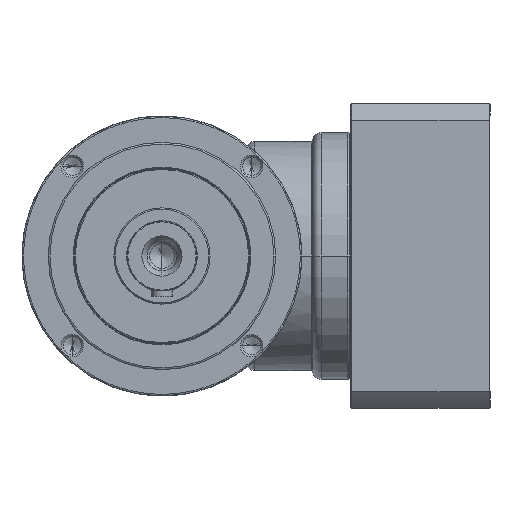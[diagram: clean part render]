
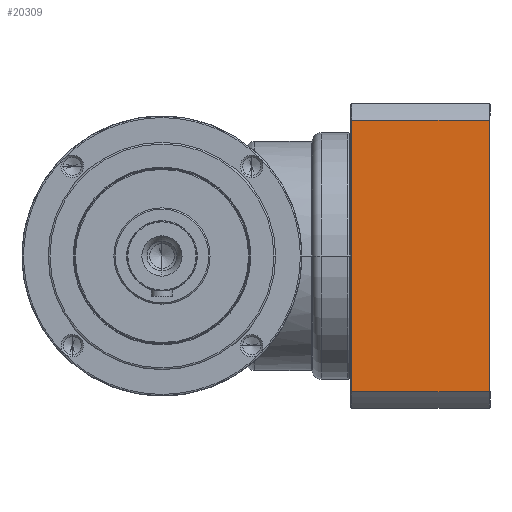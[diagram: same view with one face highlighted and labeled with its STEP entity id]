
A CAD part, left-side view. The second image highlights one B-rep face of the part: STEP entity #20309.
In plain terms, the highlighted planar face has unit normal (-1, 0, 0) as drawn and (0, -1, 0) by its records, which use the part's own axes.
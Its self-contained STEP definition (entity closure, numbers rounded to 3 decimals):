
#19165=DIRECTION('',(1.,0.,0.));
#19166=VECTOR('',#19165,154.961);
#19167=CARTESIAN_POINT('',(-77.481,-87.,
3.));
#19168=LINE('',#19167,#19166);
#19169=DIRECTION('',(0.,0.,1.));
#19170=VECTOR('',#19169,78.5);
#19171=CARTESIAN_POINT('',(-77.481,-87.,
3.));
#19172=LINE('',#19171,#19170);
#19173=DIRECTION('',(1.,0.,0.));
#19174=VECTOR('',#19173,154.961);
#19175=CARTESIAN_POINT('',(-77.481,-87.,
81.5));
#19176=LINE('',#19175,#19174);
#19177=DIRECTION('',(0.,0.,1.));
#19178=VECTOR('',#19177,78.5);
#19179=CARTESIAN_POINT('',(77.481,-87.,
3.));
#19180=LINE('',#19179,#19178);
#19874=CARTESIAN_POINT('',(-77.481,-87.,
81.5));
#19875=CARTESIAN_POINT('',(77.481,-87.,
81.5));
#19876=VERTEX_POINT('',#19874);
#19877=VERTEX_POINT('',#19875);
#19911=CARTESIAN_POINT('',(-77.481,-87.,3.));
#19913=VERTEX_POINT('',#19911);
#19916=CARTESIAN_POINT('',(77.481,-87.,
3.));
#19917=VERTEX_POINT('',#19916);
#20295=CARTESIAN_POINT('',(-87.,-87.,0.));
#20296=DIRECTION('',(0.,-1.,0.));
#20297=DIRECTION('',(1.,0.,0.));
#20298=AXIS2_PLACEMENT_3D('',#20295,#20296,#20297);
#20299=PLANE('',#20298);
#20300=ORIENTED_EDGE('',*,*,#20289,.F.);
#20302=ORIENTED_EDGE('',*,*,#20301,.T.);
#20304=ORIENTED_EDGE('',*,*,#20303,.T.);
#20306=ORIENTED_EDGE('',*,*,#20305,.F.);
#20307=EDGE_LOOP('',(#20300,#20302,#20304,#20306));
#20308=FACE_OUTER_BOUND('',#20307,.F.);
#20309=ADVANCED_FACE('',(#20308),#20299,.T.);
#20289=EDGE_CURVE('',#19913,#19917,#19168,.T.);
#20301=EDGE_CURVE('',#19913,#19876,#19172,.T.);
#20303=EDGE_CURVE('',#19876,#19877,#19176,.T.);
#20305=EDGE_CURVE('',#19917,#19877,#19180,.T.);
